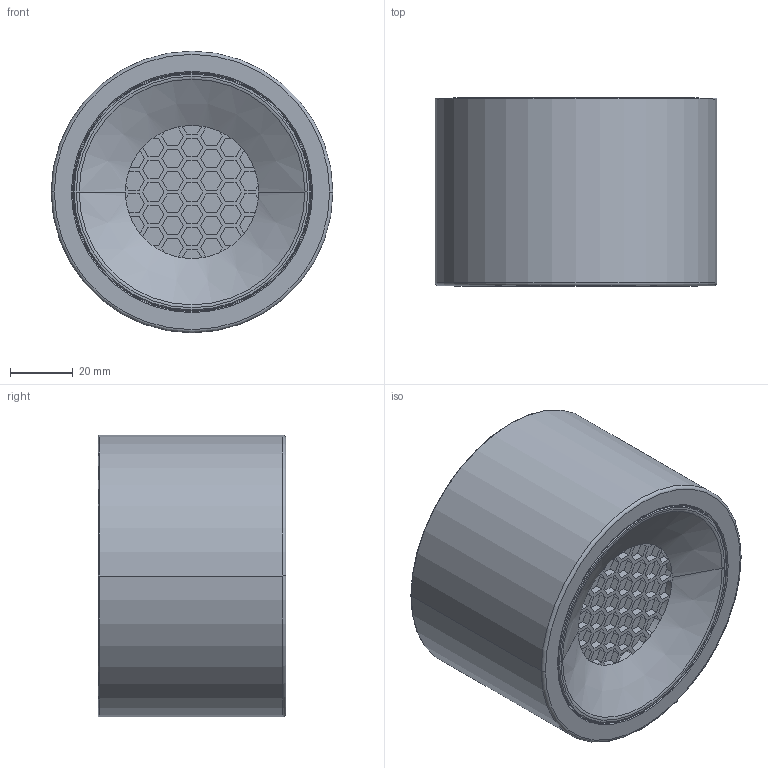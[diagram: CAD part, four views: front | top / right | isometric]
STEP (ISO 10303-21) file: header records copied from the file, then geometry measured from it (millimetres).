
FILE_DESCRIPTION((''),'2;1');
FILE_NAME('ASM0001_ASM','2025-12-13T11:31:45',('Administrator'),(''),'CREO PARAMETRIC BY PTC INC, 2021164','CREO PARAMETRIC BY PTC INC, 2021164','');
FILE_SCHEMA(('CONFIG_CONTROL_DESIGN','SHAPE_APPEARANCE_LAYERS_GROUPS'));
Length unit declared in the file: millimetre
Products named in the file (5): PRT0001; PRT0002; PRT0003; PRT0004; ASM0001_ASM
Assembly tree (4 placements, depth 2):
  ASM0001_ASM
    PRT0001
    PRT0002
    PRT0003
    PRT0004
Bounding box: 90 x 60 x 90 mm (x, y, z)
Volume: 149900.1 mm3; surface area: 81194.8 mm2
Topology: 4 solids, 4 shells, 391 faces, 1088 edges, 692 vertices
Faces by surface type: plane 251, cylinder 82, torus 48, cone 6, bspline 4
Entity records: 18926 total; most frequent: CARTESIAN_POINT 2416, ORIENTED_EDGE 2176, DIRECTION 2138, PRESENTATION_STYLE_ASSIGNMENT 1483, STYLED_ITEM 1483, CURVE_STYLE 1088, EDGE_CURVE 1088, VECTOR 790
